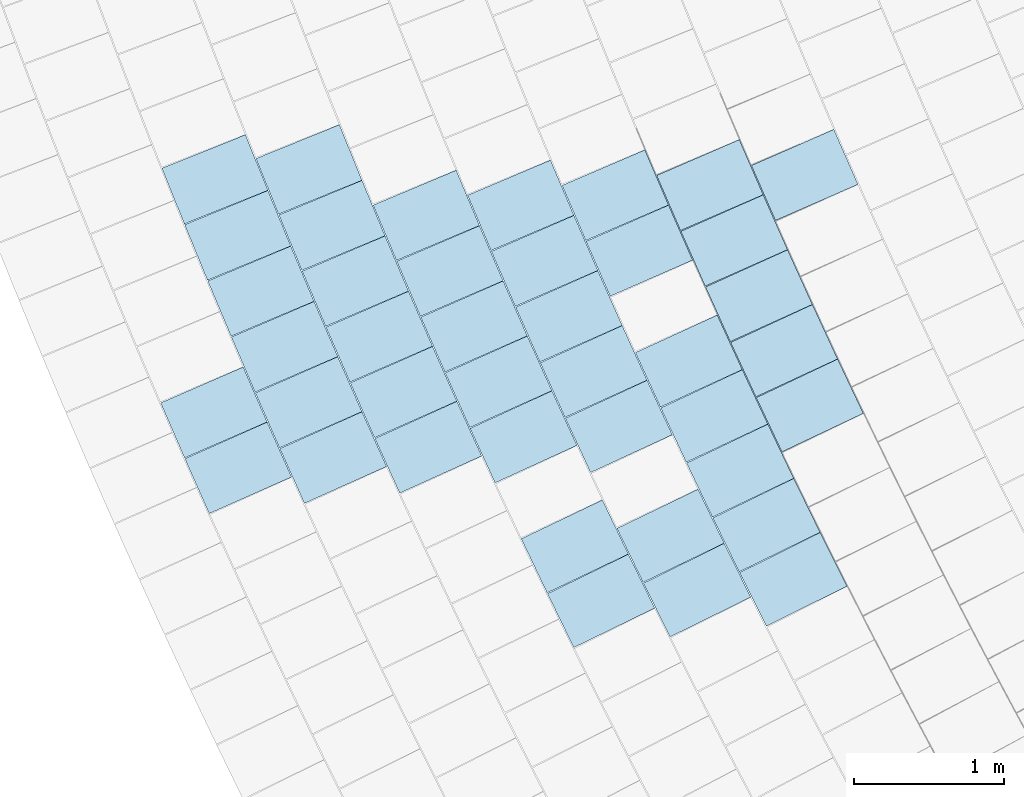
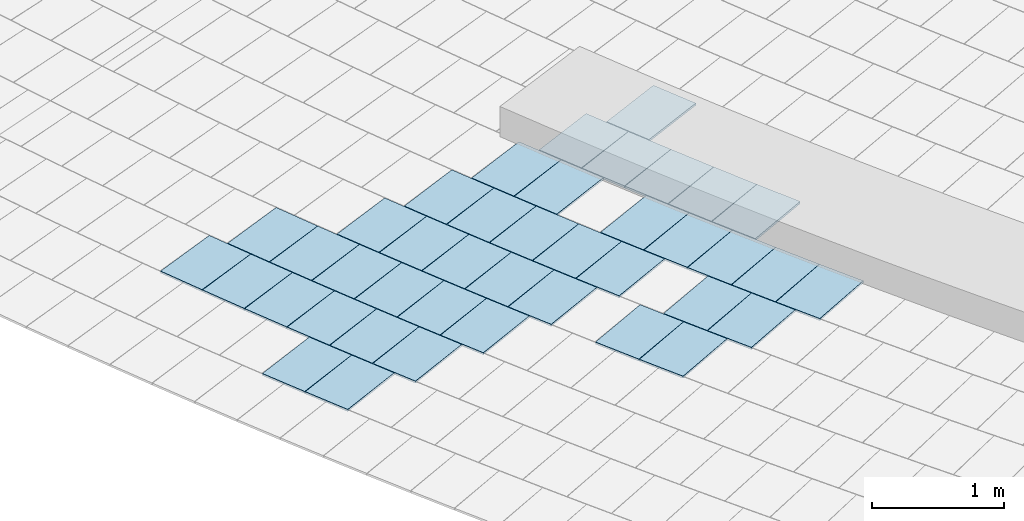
# One storey, part 67 of 438: 41 slabs.
"""IFC2X3 building model written with IfcOpenShell, lengths in millimetres."""

from ifc_helpers import new_model, entity, si_unit, converted_unit, derived_unit, direction, frame, origin, place, context, subcontext, project, spatial, polyline, outline, extrude, material, layer, layer_set, layer_usage, type_object, element, save


model = new_model("IFC2X3")

# Units and contexts
model_context = context("Model", 3, precision=0.01, world=origin(), true_north=direction((6.123031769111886e-17, 1.0)))
body_context = subcontext(model_context, "Body", "Model", "MODEL_VIEW")
ifc_project = project(units=[si_unit("LENGTHUNIT", "METRE", prefix="MILLI"), si_unit("AREAUNIT", "SQUARE_METRE"), si_unit("VOLUMEUNIT", "CUBIC_METRE"), converted_unit("PLANEANGLEUNIT", "DEGREE", entity("IfcRatioMeasure", 0.017453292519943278), si_unit("PLANEANGLEUNIT", "RADIAN"), dimensions=[0, 0, 0, 0, 0, 0, 0]), si_unit("MASSUNIT", "GRAM", prefix="KILO"), derived_unit("MASSDENSITYUNIT", [(si_unit("MASSUNIT", "GRAM", prefix="KILO"), 1), (si_unit("LENGTHUNIT", "METRE"), -3)]), derived_unit("MOMENTOFINERTIAUNIT", [(si_unit("LENGTHUNIT", "METRE"), 4)]), si_unit("TIMEUNIT", "SECOND"), si_unit("FREQUENCYUNIT", "HERTZ"), si_unit("THERMODYNAMICTEMPERATUREUNIT", "DEGREE_CELSIUS"), derived_unit("THERMALTRANSMITTANCEUNIT", [(si_unit("MASSUNIT", "GRAM", prefix="KILO"), 1), (si_unit("THERMODYNAMICTEMPERATUREUNIT", "KELVIN"), -1), (si_unit("TIMEUNIT", "SECOND"), -3)]), derived_unit("THERMALCONDUCTANCEUNIT", [(si_unit("MASSUNIT", "GRAM", prefix="KILO"), 1), (si_unit("LENGTHUNIT", "METRE"), 1), (si_unit("THERMODYNAMICTEMPERATUREUNIT", "KELVIN"), -1), (si_unit("TIMEUNIT", "SECOND"), -3)]), derived_unit("VOLUMETRICFLOWRATEUNIT", [(si_unit("LENGTHUNIT", "METRE"), 3), (si_unit("TIMEUNIT", "SECOND"), -1)]), derived_unit("MASSFLOWRATEUNIT", [(si_unit("MASSUNIT", "GRAM", prefix="KILO"), 1), (si_unit("TIMEUNIT", "SECOND"), -1)]), derived_unit("ROTATIONALFREQUENCYUNIT", [(si_unit("TIMEUNIT", "SECOND"), -1)]), si_unit("ELECTRICCURRENTUNIT", "AMPERE"), si_unit("ELECTRICVOLTAGEUNIT", "VOLT"), si_unit("POWERUNIT", "WATT"), converted_unit("FORCEUNIT", "KIP", entity("IfcRatioMeasure", 2.088543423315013e-05), si_unit("FORCEUNIT", "NEWTON"), dimensions=[1, 1, -2, 0, 0, 0, 0]), si_unit("ILLUMINANCEUNIT", "LUX"), si_unit("LUMINOUSFLUXUNIT", "LUMEN"), si_unit("LUMINOUSINTENSITYUNIT", "CANDELA"), derived_unit("USERDEFINED", [(si_unit("MASSUNIT", "GRAM", prefix="KILO"), -1), (si_unit("LENGTHUNIT", "METRE"), -2), (si_unit("TIMEUNIT", "SECOND"), 3), (si_unit("LUMINOUSFLUXUNIT", "LUMEN"), 1)]), derived_unit("USERDEFINED", [(si_unit("MASSUNIT", "GRAM", prefix="KILO"), 1), (si_unit("LENGTHUNIT", "METRE"), 3), (si_unit("TIMEUNIT", "SECOND"), -3), (si_unit("ELECTRICCURRENTUNIT", "AMPERE"), -2)]), derived_unit("USERDEFINED", [(si_unit("LENGTHUNIT", "METRE"), 2), (si_unit("TIMEUNIT", "SECOND"), -2)]), derived_unit("SOUNDPOWERUNIT", [(si_unit("MASSUNIT", "GRAM", prefix="KILO"), 1), (si_unit("LENGTHUNIT", "METRE"), 2), (si_unit("TIMEUNIT", "SECOND"), -3)]), derived_unit("SOUNDPRESSUREUNIT", [(si_unit("MASSUNIT", "GRAM", prefix="KILO"), 1), (si_unit("LENGTHUNIT", "METRE"), -1), (si_unit("TIMEUNIT", "SECOND"), -2)]), derived_unit("LINEARVELOCITYUNIT", [(si_unit("LENGTHUNIT", "METRE"), 1), (si_unit("TIMEUNIT", "SECOND"), -1)]), si_unit("PRESSUREUNIT", "PASCAL"), derived_unit("USERDEFINED", [(si_unit("LENGTHUNIT", "METRE"), -2), (si_unit("MASSUNIT", "GRAM", prefix="KILO"), 1), (si_unit("TIMEUNIT", "SECOND"), -2)]), derived_unit("LINEARFORCEUNIT", [(si_unit("MASSUNIT", "GRAM", prefix="KILO"), 1), (si_unit("LENGTHUNIT", "METRE"), 1), (si_unit("TIMEUNIT", "SECOND"), -2), (si_unit("LENGTHUNIT", "METRE"), -1)]), derived_unit("PLANARFORCEUNIT", [(si_unit("MASSUNIT", "GRAM", prefix="KILO"), 1), (si_unit("LENGTHUNIT", "METRE"), 1), (si_unit("TIMEUNIT", "SECOND"), -2), (si_unit("LENGTHUNIT", "METRE"), -2)]), derived_unit("SPECIFICHEATCAPACITYUNIT", [(si_unit("LENGTHUNIT", "METRE"), 2), (si_unit("TIMEUNIT", "SECOND"), -2), (si_unit("THERMODYNAMICTEMPERATUREUNIT", "KELVIN"), -1)]), derived_unit("VAPORPERMEABILITYUNIT", [(si_unit("TIMEUNIT", "SECOND"), 1), (si_unit("LENGTHUNIT", "METRE"), -1)]), derived_unit("DYNAMICVISCOSITYUNIT", [(si_unit("MASSUNIT", "GRAM", prefix="KILO"), 1), (si_unit("LENGTHUNIT", "METRE"), -1), (si_unit("TIMEUNIT", "SECOND"), -1)]), derived_unit("THERMALEXPANSIONCOEFFICIENTUNIT", [(si_unit("THERMODYNAMICTEMPERATUREUNIT", "KELVIN"), -1)])], contexts=[model_context])

# Site, building, storey
site_placement = place(None, frame((0.0, 0.0, 0.0), z_axis=(0.0, 0.0, 1.0), x_axis=(0.8191520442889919, 0.5735764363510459, 0.0)))
site = spatial("IfcSite", under=ifc_project, at=site_placement, Name="Default", CompositionType="ELEMENT")
building_placement = place(site_placement, origin())
building = spatial("IfcBuilding", under=site, at=building_placement, CompositionType="ELEMENT")
storey_placement = place(building_placement, origin())
storey = spatial("IfcBuildingStorey", under=building, at=storey_placement, Name="PLAN", CompositionType="ELEMENT", Elevation=0.0)

# Slabs
ifc_material = material(Name="Paint-01")
ifc_layer = layer(ifc_material, 20.00000000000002)
ifc_layer_set = layer_set([ifc_layer], Name="Floor:Slab-179:1000")
ifc_layer_usage = layer_usage(ifc_layer_set, "AXIS3", "POSITIVE", 0.0)
slab_type = type_object("IfcSlabType", Name="Floor:Slab-179:1000", PredefinedType="FLOOR", material=ifc_layer_set)
slab_1_placement = place(storey_placement, origin())
element("IfcSlab", 1, at=slab_1_placement, inside=storey, type_object=slab_type, material=ifc_layer_usage, Name="Floor:Slab-179:1000", ObjectType="Floor:Slab-179:1000", PredefinedType="FLOOR", context=body_context, shape_type="SweptSolid", body=[
    extrude(outline(polyline([(-300.0, -200.00000294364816), (299.99999762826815, -200.00000294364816), (300.0, 200.00000294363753), (-299.9999976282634, 200.0000029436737), (-300.0, -200.00000294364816)])), frame((-87411.1659682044, -59116.4364299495, 520.0), z_axis=(0.0, 0.0, -1.0), x_axis=(0.9828647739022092, -0.18432806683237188, 0.0)), (0.0, 0.0, 1.0), 20.000000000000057),
])
slab_2_placement = place(storey_placement, origin())
element("IfcSlab", 2, at=slab_2_placement, inside=storey, type_object=slab_type, material=ifc_layer_usage, Name="Floor:Slab-179:1000", ObjectType="Floor:Slab-179:1000", PredefinedType="FLOOR", context=body_context, shape_type="SweptSolid", body=[
    extrude(outline(polyline([(-300.0, -200.00000294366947), (299.9999976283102, -200.00000294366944), (300.0, 200.0000029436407), (-299.9999976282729, 200.0000029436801), (-300.0, -200.00000294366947)])), frame((-88601.37475747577, -58898.42599941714, 520.0), z_axis=(0.0, 0.0, -1.0), x_axis=(0.9828839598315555, -0.18422573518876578, 0.0)), (0.0, 0.0, 1.0), 20.000000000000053),
])
slab_3_placement = place(storey_placement, origin())
element("IfcSlab", 3, at=slab_3_placement, inside=storey, type_object=slab_type, material=ifc_layer_usage, Name="Floor:Slab-179:1000", ObjectType="Floor:Slab-179:1000", PredefinedType="FLOOR", context=body_context, shape_type="SweptSolid", body=[
    extrude(outline(polyline([(-300.0, -200.00000294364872), (299.99999762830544, -200.00000294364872), (300.0, 200.00000294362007), (-299.9999976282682, 200.00000294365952), (-300.0, -200.00000294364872)])), frame((-88042.94447860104, -59205.30462216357, 520.0), z_axis=(0.0, 0.0, -1.0), x_axis=(0.9836304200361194, -0.18019766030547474, 0.0)), (0.0, 0.0, 1.0), 20.000000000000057),
])
slab_4_placement = place(storey_placement, origin())
element("IfcSlab", 4, at=slab_4_placement, inside=storey, type_object=slab_type, material=ifc_layer_usage, Name="Floor:Slab-179:1000", ObjectType="Floor:Slab-179:1000", PredefinedType="FLOOR", context=body_context, shape_type="SweptSolid", body=[
    extrude(outline(polyline([(-300.0, -200.00000294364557), (299.9999976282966, -200.00000294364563), (300.0, 200.0000029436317), (-299.9999976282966, 200.00000294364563), (-300.0, -200.00000294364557)])), frame((-89233.13728684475, -58987.26545319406, 520.0), z_axis=(0.0, 0.0, -1.0), x_axis=(0.9836304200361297, -0.18019766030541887, 0.0)), (0.0, 0.0, 1.0), 20.000000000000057),
])
slab_5_placement = place(storey_placement, origin())
element("IfcSlab", 5, at=slab_5_placement, inside=storey, type_object=slab_type, material=ifc_layer_usage, Name="Floor:Slab-179:1000", ObjectType="Floor:Slab-179:1000", PredefinedType="FLOOR", context=body_context, shape_type="SweptSolid", body=[
    extrude(outline(polyline([(-300.0, -200.00000294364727), (299.9999976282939, -200.00000294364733), (300.0, 200.00000294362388), (-299.9999976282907, 200.00000294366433), (-300.0, -200.00000294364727)])), frame((-89791.58277114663, -58680.414181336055, 520.0), z_axis=(0.0, 0.0, -1.0), x_axis=(0.9829022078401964, -0.18412835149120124, 0.0)), (0.0, 0.0, 1.0), 20.000000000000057),
])
slab_6_placement = place(storey_placement, origin())
element("IfcSlab", 6, at=slab_6_placement, inside=storey, type_object=slab_type, material=ifc_layer_usage, Name="Floor:Slab-179:1000", ObjectType="Floor:Slab-179:1000", PredefinedType="FLOOR", context=body_context, shape_type="SweptSolid", body=[
    extrude(outline(polyline([(-300.0, -200.0000029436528), (299.99999762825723, -200.0000029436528), (300.0, 200.0000029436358), (-299.9999976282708, 200.0000029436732), (-300.0, -200.0000029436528)])), frame((-86700.94251871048, -58632.694725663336, 520.0), z_axis=(0.0, 0.0, -1.0), x_axis=(0.9804212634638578, -0.1969115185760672, 0.0)), (0.0, 0.0, 1.0), 20.000000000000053),
])
slab_7_placement = place(storey_placement, origin())
element("IfcSlab", 7, at=slab_7_placement, inside=storey, type_object=slab_type, material=ifc_layer_usage, Name="Floor:Slab-179:1000", ObjectType="Floor:Slab-179:1000", PredefinedType="FLOOR", context=body_context, shape_type="SweptSolid", body=[
    extrude(outline(polyline([(-300.0, -200.00000294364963), (299.99999762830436, -200.00000294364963), (300.0, 200.00000294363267), (-299.999997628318, 200.00000294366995), (-300.0, -200.00000294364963)])), frame((-87335.30955074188, -58721.131882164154, 520.0), z_axis=(0.0, 0.0, -1.0), x_axis=(0.9812814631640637, -0.19257904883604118, 0.0)), (0.0, 0.0, 1.0), 20.000000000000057),
])
slab_8_placement = place(storey_placement, origin())
element("IfcSlab", 8, at=slab_8_placement, inside=storey, type_object=slab_type, material=ifc_layer_usage, Name="Floor:Slab-179:1000", ObjectType="Floor:Slab-179:1000", PredefinedType="FLOOR", context=body_context, shape_type="SweptSolid", body=[
    extrude(outline(polyline([(-300.0, -200.00000294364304), (299.99999762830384, -200.00000294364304), (300.0, 200.0000029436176), (-299.9999976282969, 200.00000294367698), (-300.0, -200.00000294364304)])), frame((-87256.13467979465, -58326.4785895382, 520.0), z_axis=(0.0, 0.0, -1.0), x_axis=(0.9796288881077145, -0.20081643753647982, 0.0)), (0.0, 0.0, 1.0), 20.000000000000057),
])
slab_9_placement = place(storey_placement, origin())
element("IfcSlab", 9, at=slab_9_placement, inside=storey, type_object=slab_type, material=ifc_layer_usage, Name="Floor:Slab-179:1000", ObjectType="Floor:Slab-179:1000", PredefinedType="FLOOR", context=body_context, shape_type="SweptSolid", body=[
    extrude(outline(polyline([(-200.0000045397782, -299.9999986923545), (200.00000134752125, -299.9999986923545), (200.00000453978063, 299.99999869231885), (-200.00000134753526, 299.9999986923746), (-200.0000045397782, -299.9999986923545)])), frame((-87483.69857781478, -59512.36433010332, 520.0), z_axis=(0.0, 0.0, -1.0), x_axis=(-0.17606407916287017, -0.984378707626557, 0.0)), (0.0, 0.0, 1.0), 20.000000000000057),
])
slab_10_placement = place(storey_placement, origin())
element("IfcSlab", 10, at=slab_10_placement, inside=storey, type_object=slab_type, material=ifc_layer_usage, Name="Floor:Slab-179:1000", ObjectType="Floor:Slab-179:1000", PredefinedType="FLOOR", context=body_context, shape_type="SweptSolid", body=[
    extrude(outline(polyline([(-200.00000453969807, -299.99999869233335), (200.00000134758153, -299.99999869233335), (200.00000453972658, 299.999998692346), (-200.00000134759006, 299.9999986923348), (-200.00000453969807, -299.99999869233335)])), frame((-87552.90225981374, -59908.88763580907, 520.0), z_axis=(0.0, 0.0, -1.0), x_axis=(-0.16778765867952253, -0.9858231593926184, 0.0)), (0.0, 0.0, 1.0), 19.99999999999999),
])
slab_11_placement = place(storey_placement, origin())
element("IfcSlab", 11, at=slab_11_placement, inside=storey, type_object=slab_type, material=ifc_layer_usage, Name="Floor:Slab-179:1000", ObjectType="Floor:Slab-179:1000", PredefinedType="FLOOR", context=body_context, shape_type="SweptSolid", body=[
    extrude(outline(polyline([(-300.0, -200.00000294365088), (299.99999762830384, -200.00000294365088), (300.0, 200.00000294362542), (-299.99999762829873, 200.00000294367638), (-300.0, -200.00000294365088)])), frame((-87891.32817626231, -58414.748285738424, 520.0), z_axis=(0.0, 0.0, -1.0), x_axis=(0.9805052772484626, -0.19649275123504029, 0.0)), (0.0, 0.0, 1.0), 19.99999999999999),
])
slab_12_placement = place(storey_placement, origin())
element("IfcSlab", 12, at=slab_12_placement, inside=storey, type_object=slab_type, material=ifc_layer_usage, Name="Floor:Slab-179:1000", ObjectType="Floor:Slab-179:1000", PredefinedType="FLOOR", context=body_context, shape_type="SweptSolid", body=[
    extrude(outline(polyline([(-300.0, -200.00000294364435), (299.9999976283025, -200.00000294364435), (300.0, 200.00000294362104), (-299.9999976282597, 200.00000294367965), (-300.0, -200.00000294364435)])), frame((-87810.6064110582, -58020.44067738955, 520.0), z_axis=(0.0, 0.0, -1.0), x_axis=(0.9788414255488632, -0.20462029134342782, 0.0)), (0.0, 0.0, 1.0), 19.99999999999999),
])
slab_13_placement = place(storey_placement, origin())
element("IfcSlab", 13, at=slab_13_placement, inside=storey, type_object=slab_type, material=ifc_layer_usage, Name="Floor:Slab-179:1000", ObjectType="Floor:Slab-179:1000", PredefinedType="FLOOR", context=body_context, shape_type="SweptSolid", body=[
    extrude(outline(polyline([(-200.00000453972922, -299.99999869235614), (200.00000134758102, -299.99999869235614), (200.00000453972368, 299.99999869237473), (-200.00000134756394, 299.9999986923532), (-200.00000453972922, -299.99999869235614)])), frame((-88113.82858069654, -59601.49893995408, 520.0), z_axis=(0.0, 0.0, -1.0), x_axis=(-0.1720312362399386, -0.9850914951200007, 0.0)), (0.0, 0.0, 1.0), 19.99999999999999),
])
slab_14_placement = place(storey_placement, origin())
element("IfcSlab", 14, at=slab_14_placement, inside=storey, type_object=slab_type, material=ifc_layer_usage, Name="Floor:Slab-179:1000", ObjectType="Floor:Slab-179:1000", PredefinedType="FLOOR", context=body_context, shape_type="SweptSolid", body=[
    extrude(outline(polyline([(-200.0000045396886, -299.9999986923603), (200.0000013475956, -299.99999869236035), (200.00000453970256, 299.9999986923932), (-200.0000013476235, 299.9999986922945), (-200.0000045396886, -299.9999986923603)])), frame((-88245.72429397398, -60395.58353558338, 520.0), z_axis=(0.0, 0.0, -1.0), x_axis=(-0.15566342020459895, -0.9878101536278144, 0.0)), (0.0, 0.0, 1.0), 20.000000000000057),
])
slab_15_placement = place(storey_placement, origin())
element("IfcSlab", 15, at=slab_15_placement, inside=storey, type_object=slab_type, material=ifc_layer_usage, Name="Floor:Slab-179:1000", ObjectType="Floor:Slab-179:1000", PredefinedType="FLOOR", context=body_context, shape_type="SweptSolid", body=[
    extrude(outline(polyline([(-200.0000045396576, -299.99999869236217), (200.00000134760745, -299.99999869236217), (200.0000045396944, 299.99999869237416), (-200.00000134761, 299.99999869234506), (-200.0000045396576, -299.99999869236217)])), frame((-88306.72682739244, -60793.41916030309, 520.0), z_axis=(0.0, 0.0, -1.0), x_axis=(-0.1474631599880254, -0.9890675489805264, 0.0)), (0.0, 0.0, 1.0), 19.99999999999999),
])
slab_16_placement = place(storey_placement, origin())
element("IfcSlab", 16, at=slab_16_placement, inside=storey, type_object=slab_type, material=ifc_layer_usage, Name="Floor:Slab-179:1000", ObjectType="Floor:Slab-179:1000", PredefinedType="FLOOR", context=body_context, shape_type="SweptSolid", body=[
    extrude(outline(polyline([(-200.00000453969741, -299.9999986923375), (200.0000013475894, -299.99999869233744), (200.0000045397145, 299.9999986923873), (-200.00000134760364, 299.9999986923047), (-200.00000453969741, -299.9999986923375)])), frame((-88181.42340323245, -59998.26768033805, 520.0), z_axis=(0.0, 0.0, -1.0), x_axis=(-0.16385296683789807, -0.9864847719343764, 0.0)), (0.0, 0.0, 1.0), 20.000000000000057),
])
slab_17_placement = place(storey_placement, origin())
element("IfcSlab", 17, at=slab_17_placement, inside=storey, type_object=slab_type, material=ifc_layer_usage, Name="Floor:Slab-179:1000", ObjectType="Floor:Slab-179:1000", PredefinedType="FLOOR", context=body_context, shape_type="SweptSolid", body=[
    extrude(outline(polyline([(-300.0, -200.00000294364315), (299.9999976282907, -200.00000294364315), (300.0, 200.00000294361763), (-299.9999976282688, 200.0000029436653), (-300.0, -200.00000294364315)])), frame((-88525.61238283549, -58503.16684637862, 520.0), z_axis=(0.0, 0.0, -1.0), x_axis=(0.9813415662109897, -0.19227254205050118, 0.0)), (0.0, 0.0, 1.0), 19.99999999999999),
])
slab_18_placement = place(storey_placement, origin())
element("IfcSlab", 18, at=slab_18_placement, inside=storey, type_object=slab_type, material=ifc_layer_usage, Name="Floor:Slab-179:1000", ObjectType="Floor:Slab-179:1000", PredefinedType="FLOOR", context=body_context, shape_type="SweptSolid", body=[
    extrude(outline(polyline([(-300.0, -200.0000029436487), (299.9999976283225, -200.00000294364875), (300.0, 200.00000294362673), (-299.99999762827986, 200.00000294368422), (-300.0, -200.0000029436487)])), frame((-88446.61410359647, -58108.54169848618, 520.0), z_axis=(0.0, 0.0, -1.0), x_axis=(0.9797332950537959, -0.20030644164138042, 0.0)), (0.0, 0.0, 1.0), 20.000000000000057),
])
slab_19_placement = place(storey_placement, origin())
element("IfcSlab", 19, at=slab_19_placement, inside=storey, type_object=slab_type, material=ifc_layer_usage, Name="Floor:Slab-179:1000", ObjectType="Floor:Slab-179:1000", PredefinedType="FLOOR", context=body_context, shape_type="SweptSolid", body=[
    extrude(outline(polyline([(-300.0, -200.00000294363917), (299.9999976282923, -200.00000294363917), (300.0, 200.0000029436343), (-299.99999762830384, 200.00000294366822), (-300.0, -200.00000294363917)])), frame((-88364.38522291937, -57714.57704695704, 520.0), z_axis=(0.0, 0.0, -1.0), x_axis=(0.9780592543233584, -0.2083268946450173, 0.0)), (0.0, 0.0, 1.0), 20.000000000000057),
])
slab_20_placement = place(storey_placement, origin())
element("IfcSlab", 20, at=slab_20_placement, inside=storey, type_object=slab_type, material=ifc_layer_usage, Name="Floor:Slab-179:1000", ObjectType="Floor:Slab-179:1000", PredefinedType="FLOOR", context=body_context, shape_type="SweptSolid", body=[
    extrude(outline(polyline([(-200.00000453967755, -299.9999986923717), (200.00000134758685, -299.99999869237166), (200.00000453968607, 299.9999986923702), (-200.0000013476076, 299.999998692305), (-200.00000453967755, -299.9999986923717)])), frame((-88673.89614158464, -59294.29262383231, 520.0), z_axis=(0.0, 0.0, -1.0), x_axis=(-0.1761665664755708, -0.9843603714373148, 0.0)), (0.0, 0.0, 1.0), 19.99999999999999),
])
slab_21_placement = place(storey_placement, origin())
element("IfcSlab", 21, at=slab_21_placement, inside=storey, type_object=slab_type, material=ifc_layer_usage, Name="Floor:Slab-179:1000", ObjectType="Floor:Slab-179:1000", PredefinedType="FLOOR", context=body_context, shape_type="SweptSolid", body=[
    extrude(outline(polyline([(-200.00000453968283, -299.9999986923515), (200.00000134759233, -299.99999869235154), (200.00000453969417, 299.9999986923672), (-200.00000134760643, 299.9999986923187), (-200.00000453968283, -299.9999986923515)])), frame((-88809.19668263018, -60087.74194952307, 520.0), z_axis=(0.0, 0.0, -1.0), x_axis=(-0.1600132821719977, -0.9871148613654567, 0.0)), (0.0, 0.0, 1.0), 19.999999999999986),
])
slab_22_placement = place(storey_placement, origin())
element("IfcSlab", 22, at=slab_22_placement, inside=storey, type_object=slab_type, material=ifc_layer_usage, Name="Floor:Slab-179:1000", ObjectType="Floor:Slab-179:1000", PredefinedType="FLOOR", context=body_context, shape_type="SweptSolid", body=[
    extrude(outline(polyline([(-200.00000453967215, -299.9999986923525), (200.00000134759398, -299.9999986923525), (200.0000045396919, 299.99999869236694), (-200.0000013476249, 299.9999986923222), (-200.00000453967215, -299.9999986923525)])), frame((-88871.96675683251, -60485.2713864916, 520.0), z_axis=(0.0, 0.0, -1.0), x_axis=(-0.15192025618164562, -0.9883927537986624, 0.0)), (0.0, 0.0, 1.0), 19.999999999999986),
])
slab_23_placement = place(storey_placement, origin())
element("IfcSlab", 23, at=slab_23_placement, inside=storey, type_object=slab_type, material=ifc_layer_usage, Name="Floor:Slab-179:1000", ObjectType="Floor:Slab-179:1000", PredefinedType="FLOOR", context=body_context, shape_type="SweptSolid", body=[
    extrude(outline(polyline([(-300.0, -200.0000029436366), (299.9999976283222, -200.0000029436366), (300.0, 200.00000294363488), (-299.99999762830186, 200.00000294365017), (-300.0, -200.0000029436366)])), frame((-89081.70435153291, -58196.79736537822, 520.0), z_axis=(0.0, 0.0, -1.0), x_axis=(0.9805850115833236, -0.1960944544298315, 0.0)), (0.0, 0.0, 1.0), 20.000000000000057),
])
slab_24_placement = place(storey_placement, origin())
element("IfcSlab", 24, at=slab_24_placement, inside=storey, type_object=slab_type, material=ifc_layer_usage, Name="Floor:Slab-179:1000", ObjectType="Floor:Slab-179:1000", PredefinedType="FLOOR", context=body_context, shape_type="SweptSolid", body=[
    extrude(outline(polyline([(-300.0, -200.00000294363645), (299.99999762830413, -200.00000294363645), (300.0, 200.00000294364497), (-299.9999976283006, 200.00000294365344), (-300.0, -200.00000294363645)])), frame((-89001.19496237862, -57802.5083559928, 520.0), z_axis=(0.0, 0.0, -1.0), x_axis=(0.9789659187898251, -0.20402384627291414, 0.0)), (0.0, 0.0, 1.0), 19.99999999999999),
])
slab_25_placement = place(storey_placement, origin())
element("IfcSlab", 25, at=slab_25_placement, inside=storey, type_object=slab_type, material=ifc_layer_usage, Name="Floor:Slab-179:1000", ObjectType="Floor:Slab-179:1000", PredefinedType="FLOOR", context=body_context, shape_type="SweptSolid", body=[
    extrude(outline(polyline([(-300.0, -200.00000294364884), (299.99999762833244, -200.00000294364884), (300.0, 200.0000029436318), (-299.99999762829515, 200.00000294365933), (-300.0, -200.00000294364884)])), frame((-89159.02014766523, -58591.7250199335, 520.0), z_axis=(0.0, 0.0, -1.0), x_axis=(0.9821398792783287, -0.18815221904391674, 0.0)), (0.0, 0.0, 1.0), 20.000000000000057),
])
slab_26_placement = place(storey_placement, origin())
element("IfcSlab", 26, at=slab_26_placement, inside=storey, type_object=slab_type, material=ifc_layer_usage, Name="Floor:Slab-179:1000", ObjectType="Floor:Slab-179:1000", PredefinedType="FLOOR", context=body_context, shape_type="SweptSolid", body=[
    extrude(outline(polyline([(-300.0, -200.0000029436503), (299.999997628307, -200.0000029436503), (300.0, 200.00000294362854), (-299.9999976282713, 200.0000029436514), (-300.0, -200.0000029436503)])), frame((-88917.497253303, -57408.88381641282, 520.0), z_axis=(0.0, 0.0, -1.0), x_axis=(0.9772827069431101, -0.2119398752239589, 0.0)), (0.0, 0.0, 1.0), 19.999999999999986),
])
slab_27_placement = place(storey_placement, origin())
element("IfcSlab", 27, at=slab_27_placement, inside=storey, type_object=slab_type, material=ifc_layer_usage, Name="Floor:Slab-179:1000", ObjectType="Floor:Slab-179:1000", PredefinedType="FLOOR", context=body_context, shape_type="SweptSolid", body=[
    extrude(outline(polyline([(-200.00000453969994, -299.9999986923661), (200.0000013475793, -299.99999869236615), (200.00000453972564, 299.99999869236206), (-200.0000013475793, 299.99999869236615), (-200.00000453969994, -299.9999986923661)])), frame((-89436.24926777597, -60177.30416871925, 520.0), z_axis=(0.0, 0.0, -1.0), x_axis=(-0.15626526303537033, -0.9877151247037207, 0.0)), (0.0, 0.0, 1.0), 20.000000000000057),
])
slab_28_placement = place(storey_placement, origin())
element("IfcSlab", 28, at=slab_28_placement, inside=storey, type_object=slab_type, material=ifc_layer_usage, Name="Floor:Slab-179:1000", ObjectType="Floor:Slab-179:1000", PredefinedType="FLOOR", context=body_context, shape_type="SweptSolid", body=[
    extrude(outline(polyline([(-200.00000453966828, -299.999998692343), (200.00000134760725, -299.999998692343), (200.0000045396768, 299.99999869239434), (-200.0000013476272, 299.99999869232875), (-200.00000453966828, -299.999998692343)])), frame((-89371.75638644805, -59780.08099099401, 520.0), z_axis=(0.0, 0.0, -1.0), x_axis=(-0.16425366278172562, -0.9864181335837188, 0.0)), (0.0, 0.0, 1.0), 19.99999999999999),
])
slab_29_placement = place(storey_placement, origin())
element("IfcSlab", 29, at=slab_29_placement, inside=storey, type_object=slab_type, material=ifc_layer_usage, Name="Floor:Slab-179:1000", ObjectType="Floor:Slab-179:1000", PredefinedType="FLOOR", context=body_context, shape_type="SweptSolid", body=[
    extrude(outline(polyline([(-300.0, -200.0000029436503), (299.99999762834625, -200.0000029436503), (300.0, 200.0000029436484), (-299.9999976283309, 200.00000294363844), (-300.0, -200.0000029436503)])), frame((-89715.90987061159, -58285.19825172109, 520.0), z_axis=(0.0, 0.0, -1.0), x_axis=(0.9813986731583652, -0.19198084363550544, 0.0)), (0.0, 0.0, 1.0), 20.000000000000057),
])
slab_30_placement = place(storey_placement, origin())
element("IfcSlab", 30, at=slab_30_placement, inside=storey, type_object=slab_type, material=ifc_layer_usage, Name="Floor:Slab-179:1000", ObjectType="Floor:Slab-179:1000", PredefinedType="FLOOR", context=body_context, shape_type="SweptSolid", body=[
    extrude(outline(polyline([(-300.0, -200.0000029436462), (299.99999762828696, -200.0000029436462), (300.0, 200.0000029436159), (-299.9999976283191, 200.00000294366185), (-300.0, -200.0000029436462)])), frame((-89555.09702105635, -57496.64454233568, 520.0), z_axis=(0.0, 0.0, -1.0), x_axis=(0.9782035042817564, -0.2076485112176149, 0.0)), (0.0, 0.0, 1.0), 20.000000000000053),
])
slab_31_placement = place(storey_placement, origin())
element("IfcSlab", 31, at=slab_31_placement, inside=storey, type_object=slab_type, material=ifc_layer_usage, Name="Floor:Slab-179:1000", ObjectType="Floor:Slab-179:1000", PredefinedType="FLOOR", context=body_context, shape_type="SweptSolid", body=[
    extrude(outline(polyline([(-300.0, -200.00000294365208), (299.9999976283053, -200.00000294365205), (300.0, 200.0000029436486), (-299.99999762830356, 200.00000294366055), (-300.0, -200.00000294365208)])), frame((-89637.07960757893, -57890.59996418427, 520.0), z_axis=(0.0, 0.0, -1.0), x_axis=(0.979832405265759, -0.19982106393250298, 0.0)), (0.0, 0.0, 1.0), 20.000000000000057),
])
slab_32_placement = place(storey_placement, origin())
element("IfcSlab", 32, at=slab_32_placement, inside=storey, type_object=slab_type, material=ifc_layer_usage, Name="Floor:Slab-179:1000", ObjectType="Floor:Slab-179:1000", PredefinedType="FLOOR", context=body_context, shape_type="SweptSolid", body=[
    extrude(outline(polyline([(-300.0, -200.00000294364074), (299.9999976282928, -200.00000294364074), (300.0, 200.0000029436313), (-299.9999976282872, 200.00000294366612), (-300.0, -200.00000294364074)])), frame((-89469.9673515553, -57103.35716869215, 520.0), z_axis=(0.0, 0.0, -1.0), x_axis=(0.9765120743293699, -0.21546268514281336, 0.0)), (0.0, 0.0, 1.0), 19.99999999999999),
])
slab_33_placement = place(storey_placement, origin())
element("IfcSlab", 33, at=slab_33_placement, inside=storey, type_object=slab_type, material=ifc_layer_usage, Name="Floor:Slab-179:1000", ObjectType="Floor:Slab-179:1000", PredefinedType="FLOOR", context=body_context, shape_type="SweptSolid", body=[
    extrude(outline(polyline([(-300.0, -200.0000029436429), (299.9999976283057, -200.0000029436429), (300.0, 200.00000294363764), (-299.999997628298, 200.0000029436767), (-300.0, -200.0000029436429)])), frame((-89381.6960407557, -56710.76298306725, 520.0), z_axis=(0.0, 0.0, -1.0), x_axis=(0.9747582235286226, -0.2232630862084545, 0.0)), (0.0, 0.0, 1.0), 19.99999999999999),
])
slab_34_placement = place(storey_placement, origin())
element("IfcSlab", 34, at=slab_34_placement, inside=storey, type_object=slab_type, material=ifc_layer_usage, Name="Floor:Slab-179:1000", ObjectType="Floor:Slab-179:1000", PredefinedType="FLOOR", context=body_context, shape_type="SweptSolid", body=[
    extrude(outline(polyline([(-300.0, -200.00000294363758), (299.9999976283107, -200.00000294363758), (300.0, 200.00000294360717), (-299.99999762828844, 200.00000294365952), (-300.0, -200.00000294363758)])), frame((-90191.76452789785, -57584.57109200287, 520.0), z_axis=(0.0, 0.0, -1.0), x_axis=(0.9790841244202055, -0.2034558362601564, 0.0)), (0.0, 0.0, 1.0), 19.999999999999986),
])
slab_35_placement = place(storey_placement, origin())
element("IfcSlab", 35, at=slab_35_placement, inside=storey, type_object=slab_type, material=ifc_layer_usage, Name="Floor:Slab-179:1000", ObjectType="Floor:Slab-179:1000", PredefinedType="FLOOR", context=body_context, shape_type="SweptSolid", body=[
    extrude(outline(polyline([(-300.0, -200.00000294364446), (299.9999976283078, -200.00000294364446), (300.0, 200.00000294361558), (-299.9999976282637, 200.00000294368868), (-300.0, -200.00000294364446)])), frame((-90272.07172706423, -57978.84228157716, 520.0), z_axis=(0.0, 0.0, -1.0), x_axis=(0.9806607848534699, -0.1957151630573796, 0.0)), (0.0, 0.0, 1.0), 20.000000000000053),
])
slab_36_placement = place(storey_placement, origin())
element("IfcSlab", 36, at=slab_36_placement, inside=storey, type_object=slab_type, material=ifc_layer_usage, Name="Floor:Slab-179:1000", ObjectType="Floor:Slab-179:1000", PredefinedType="FLOOR", context=body_context, shape_type="SweptSolid", body=[
    extrude(outline(polyline([(-300.0, -200.00000294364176), (299.999997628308, -200.0000029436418), (300.0, 200.0000029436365), (-299.9999976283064, 200.0000029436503), (-300.0, -200.00000294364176)])), frame((-90349.26185511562, -58373.735559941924, 520.0), z_axis=(0.0, 0.0, -1.0), x_axis=(0.9821762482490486, -0.18796227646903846, 0.0)), (0.0, 0.0, 1.0), 20.000000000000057),
])
slab_37_placement = place(storey_placement, origin())
element("IfcSlab", 37, at=slab_37_placement, inside=storey, type_object=slab_type, material=ifc_layer_usage, Name="Floor:Slab-179:1000", ObjectType="Floor:Slab-179:1000", PredefinedType="FLOOR", context=body_context, shape_type="SweptSolid", body=[
    extrude(outline(polyline([(-300.0, -200.00000294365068), (299.9999976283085, -200.0000029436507), (300.0, 200.0000029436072), (-299.9999976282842, 200.0000029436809), (-300.0, -200.00000294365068)])), frame((-90108.34526909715, -57190.94659527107, 520.0), z_axis=(0.0, 0.0, -1.0), x_axis=(0.9774463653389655, -0.21118381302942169, 0.0)), (0.0, 0.0, 1.0), 20.000000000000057),
])
slab_38_placement = place(storey_placement, origin())
element("IfcSlab", 38, at=slab_38_placement, inside=storey, type_object=slab_type, material=ifc_layer_usage, Name="Floor:Slab-179:1000", ObjectType="Floor:Slab-179:1000", PredefinedType="FLOOR", context=body_context, shape_type="SweptSolid", body=[
    extrude(outline(polyline([(-300.0, -200.0000029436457), (299.99999762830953, -200.0000029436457), (300.0, 200.00000294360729), (-299.9999976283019, 200.00000294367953), (-300.0, -200.0000029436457)])), frame((-90021.81915634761, -56797.99335507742, 520.0), z_axis=(0.0, 0.0, -1.0), x_axis=(0.9757476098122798, -0.2188986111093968, 0.0)), (0.0, 0.0, 1.0), 19.99999999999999),
])
slab_39_placement = place(storey_placement, origin())
element("IfcSlab", 39, at=slab_39_placement, inside=storey, type_object=slab_type, material=ifc_layer_usage, Name="Floor:Slab-179:1000", ObjectType="Floor:Slab-179:1000", PredefinedType="FLOOR", context=body_context, shape_type="SweptSolid", body=[
    extrude(outline(polyline([(-300.0, -200.0000029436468), (299.99999762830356, -200.0000029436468), (300.0, 200.00000294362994), (-299.99999762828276, 200.00000294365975), (-300.0, -200.0000029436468)])), frame((-89932.19158921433, -56405.73589322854, 520.0), z_axis=(0.0, 0.0, -1.0), x_axis=(0.9739879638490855, -0.22659974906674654, 0.0)), (0.0, 0.0, 1.0), 20.000000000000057),
])
slab_40_placement = place(storey_placement, origin())
element("IfcSlab", 40, at=slab_40_placement, inside=storey, type_object=slab_type, material=ifc_layer_usage, Name="Floor:Slab-179:1000", ObjectType="Floor:Slab-179:1000", PredefinedType="FLOOR", context=body_context, shape_type="SweptSolid", body=[
    extrude(outline(polyline([(-300.0, -200.00000294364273), (299.99999762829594, -200.00000294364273), (300.0, 200.0000029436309), (-299.99999762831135, 200.00000294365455), (-300.0, -200.00000294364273)])), frame((-90906.20239421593, -58067.226348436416, 520.0), z_axis=(0.0, 0.0, -1.0), x_axis=(0.9814530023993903, -0.1917029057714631, 0.0)), (0.0, 0.0, 1.0), 20.000000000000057),
])
slab_41_placement = place(storey_placement, origin())
element("IfcSlab", 41, at=slab_41_placement, inside=storey, type_object=slab_type, material=ifc_layer_usage, Name="Floor:Slab-179:1000", ObjectType="Floor:Slab-179:1000", PredefinedType="FLOOR", context=body_context, shape_type="SweptSolid", body=[
    extrude(outline(polyline([(-300.0, -200.00000294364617), (299.9999976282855, -200.00000294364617), (300.0, 200.00000294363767), (-299.9999976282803, 200.00000294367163), (-300.0, -200.00000294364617)])), frame((-90827.5321816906, -57672.6537225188, 520.0), z_axis=(0.0, 0.0, -1.0), x_axis=(0.9799266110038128, -0.1993585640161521, 0.0)), (0.0, 0.0, 1.0), 19.999999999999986),
])

save(model, "model.ifc")
